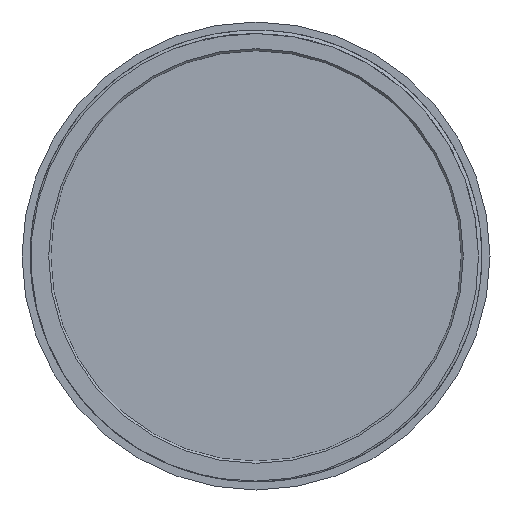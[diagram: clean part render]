
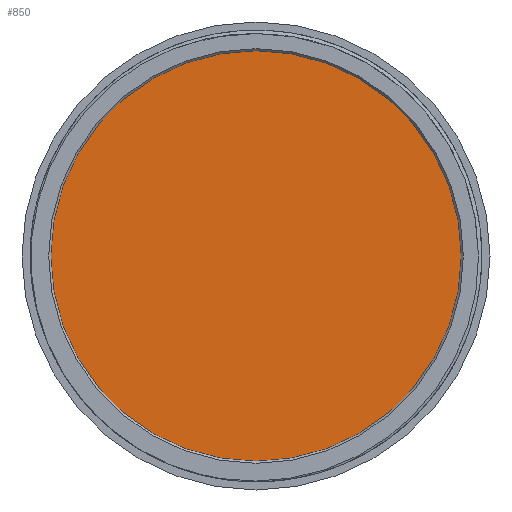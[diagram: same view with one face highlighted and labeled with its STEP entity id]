
A CAD part, front view. The second image highlights one B-rep face of the part: STEP entity #850.
In plain terms, the highlighted planar face has unit normal (0, -1, 0).
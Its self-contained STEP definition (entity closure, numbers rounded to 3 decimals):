
#117 = AXIS2_PLACEMENT_3D ( 'NONE', #2414, #1075, #568 ) ;
#568 = DIRECTION ( 'NONE',  ( 0., 0., 1. ) ) ;
#630 = CARTESIAN_POINT ( 'NONE',  ( 0., 2.3, 0. ) ) ;
#688 = ORIENTED_EDGE ( 'NONE', *, *, #3242, .F. ) ;
#807 = PLANE ( 'NONE',  #2172 ) ;
#850 = ADVANCED_FACE ( 'NONE', ( #1320 ), #807, .F. ) ;
#1057 = CIRCLE ( 'NONE', #1803, 25.75 ) ;
#1075 = DIRECTION ( 'NONE',  ( 0., 1., 0. ) ) ;
#1080 = CARTESIAN_POINT ( 'NONE',  ( 0., 2.3, 25.75 ) ) ;
#1113 = CARTESIAN_POINT ( 'NONE',  ( 0., 2.3, 0. ) ) ;
#1320 = FACE_OUTER_BOUND ( 'NONE', #2469, .T. ) ;
#1338 = DIRECTION ( 'NONE',  ( 0., 0., 1. ) ) ;
#1803 = AXIS2_PLACEMENT_3D ( 'NONE', #1113, #1879, #3151 ) ;
#1879 = DIRECTION ( 'NONE',  ( 0., 1., 0. ) ) ;
#1942 = VERTEX_POINT ( 'NONE', #2245 ) ;
#2006 = VERTEX_POINT ( 'NONE', #1080 ) ;
#2172 = AXIS2_PLACEMENT_3D ( 'NONE', #630, #2877, #1338 ) ;
#2245 = CARTESIAN_POINT ( 'NONE',  ( 0., 2.3, -25.75 ) ) ;
#2382 = EDGE_CURVE ( 'NONE', #2006, #1942, #2876, .T. ) ;
#2414 = CARTESIAN_POINT ( 'NONE',  ( 0., 2.3, 0. ) ) ;
#2469 = EDGE_LOOP ( 'NONE', ( #688, #2802 ) ) ;
#2802 = ORIENTED_EDGE ( 'NONE', *, *, #2382, .F. ) ;
#2876 = CIRCLE ( 'NONE', #117, 25.75 ) ;
#2877 = DIRECTION ( 'NONE',  ( 0., 1., 0. ) ) ;
#3151 = DIRECTION ( 'NONE',  ( 0., 0., 1. ) ) ;
#3242 = EDGE_CURVE ( 'NONE', #1942, #2006, #1057, .T. ) ;
